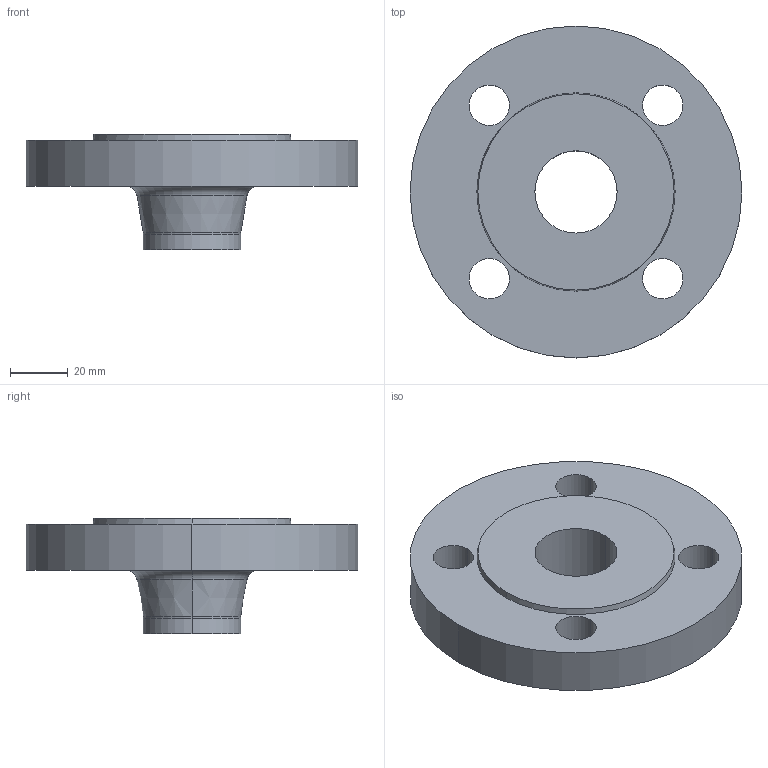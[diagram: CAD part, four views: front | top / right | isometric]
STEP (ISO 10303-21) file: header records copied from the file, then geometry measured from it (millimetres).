
FILE_DESCRIPTION (( 'STEP AP214' ), '1' );
FILE_NAME ('PN40 DN25 Type 11 - Type B Face.STEP', '2018-12-29T20:32:41', ( '' ), ( '' ), 'SwSTEP 2.0', 'SolidWorks 2019', '' );
FILE_SCHEMA (( 'AUTOMOTIVE_DESIGN' ));
Length unit declared in the file: millimetre
Products named in the file (1): PN40 DN25 Type 11 - Type B Face
Bounding box: 115 x 115 x 40 mm (x, y, z)
Volume: 160602.3 mm3; surface area: 32848.3 mm2
Topology: 1 solids, 1 shells, 26 faces, 60 edges, 38 vertices
Faces by surface type: cylinder 14, cone 4, torus 4, plane 4
Entity records: 812 total; most frequent: DIRECTION 156, CARTESIAN_POINT 125, ORIENTED_EDGE 120, AXIS2_PLACEMENT_3D 69, EDGE_CURVE 60, CIRCLE 42, VERTEX_POINT 38, EDGE_LOOP 38
